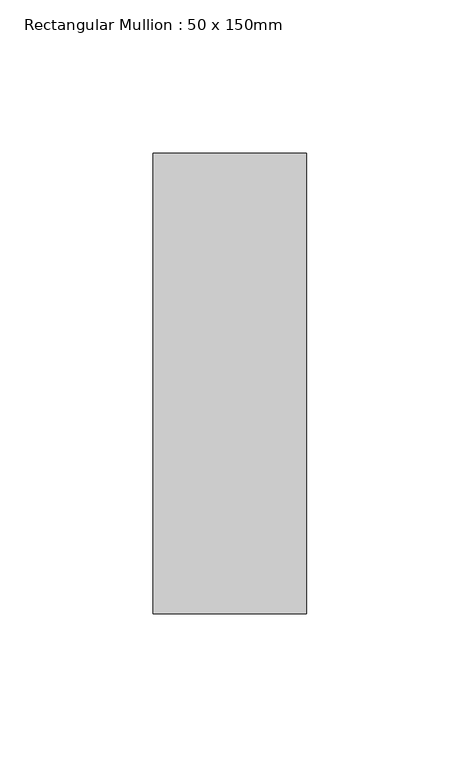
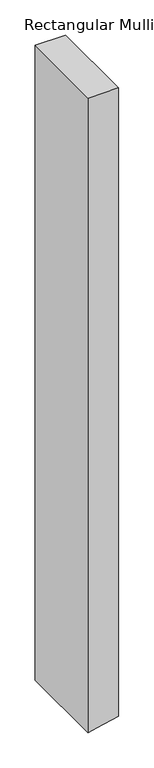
"""IFC4 building model written with IfcOpenShell, lengths in millimetres: member geometry, Rectangular Mullion : 50 x 150mm."""

from ifc_helpers import new_model, si_unit, frame, origin, place, context, project, spatial, polyline, outline, extrude, source, transform, mapped, element, save


def rectangular_mullion_50_x_150mm_64552576(model_context):
    return source(origin(), model_context, "Body", "SweptSolid", [
        extrude(outline(polyline([(0.0, 25.0), (0.0, -25.0), (-1096.2017332, -25.0), (-1093.0915584, -10.4556584), (-1085.5096892, 25.0), (0.0, 25.0)])), frame((0.0, -75.0, 0.0), z_axis=(0.0, 1.0, 0.0), x_axis=(0.0, 0.0, 1.0)), (0.0, 0.0, 1.0), 150.0),
    ])


if __name__ == "__main__":
    model = new_model("IFC4")
    model_context = context("Model", 3, world=origin())
    ifc_project = project(units=[si_unit("LENGTHUNIT", "METRE", prefix="MILLI")], contexts=[model_context])
    site = spatial("IfcSite", under=ifc_project)
    building = spatial("IfcBuilding", under=site)
    placement = place(None, origin())
    rectangular_mullion_50_x_150mm_shape = rectangular_mullion_50_x_150mm_64552576(model_context)
    element("IfcMember", 1, ObjectType="Rectangular Mullion : 50 x 150mm", at=placement, inside=building, context=model_context, shape_type="MappedRepresentation", body=[
        mapped(rectangular_mullion_50_x_150mm_shape, transform((0.0, 0.0, 0.0), x_axis=(1.0, 0.0, 0.0), y_axis=(0.0, 1.0, 0.0), z_axis=(0.0, 0.0, 1.0))),
    ])
    save(model, "model.ifc")
